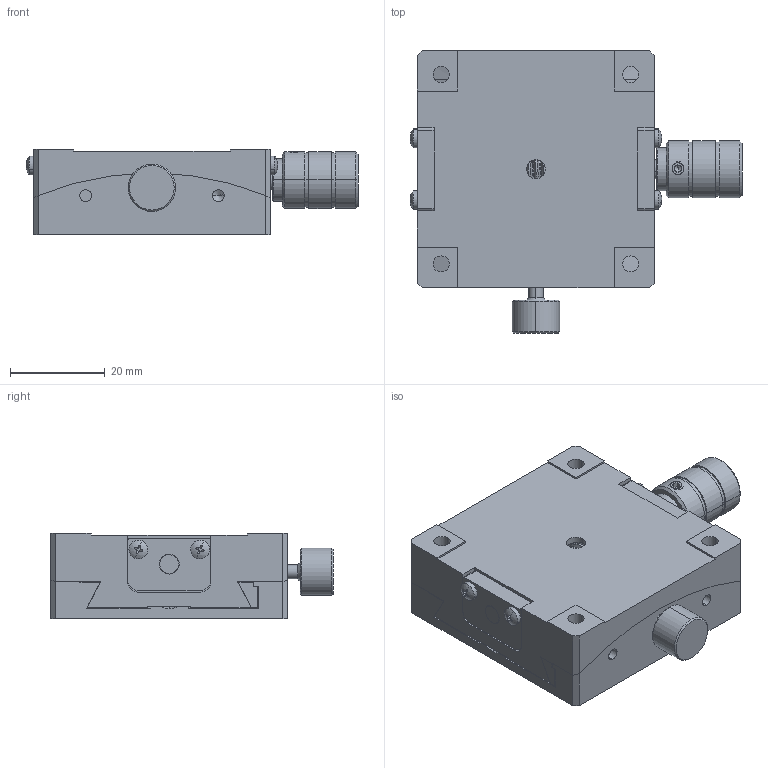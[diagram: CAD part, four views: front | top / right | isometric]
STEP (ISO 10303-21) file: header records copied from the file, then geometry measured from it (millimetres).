
FILE_DESCRIPTION (( 'STEP AP203' ), '1' );
FILE_NAME ('BFSG50-50.STEP', '2024-07-30T01:18:11', ( '微软用户' ), ( '微软中国' ), 'SwSTEP 2.0', 'SolidWorks 2024', '' );
FILE_SCHEMA (( 'CONFIG_CONTROL_DESIGN' ));
Length unit declared in the file: millimetre
Products named in the file (1): BFSG50-50
Bounding box: 70.08 x 59.61 x 18 mm (x, y, z)
Volume: 42910.8 mm3; surface area: 23463.6 mm2
Topology: 15 solids, 15 shells, 705 faces, 1878 edges, 1220 vertices
Faces by surface type: plane 390, cylinder 212, cone 48, torus 26, bspline 21, sphere 8
Entity records: 29638 total; most frequent: CARTESIAN_POINT 11979, ORIENTED_EDGE 3708, DIRECTION 3616, EDGE_CURVE 1854, AXIS2_PLACEMENT_3D 1256, VERTEX_POINT 1220, VECTOR 1104, LINE 1104
